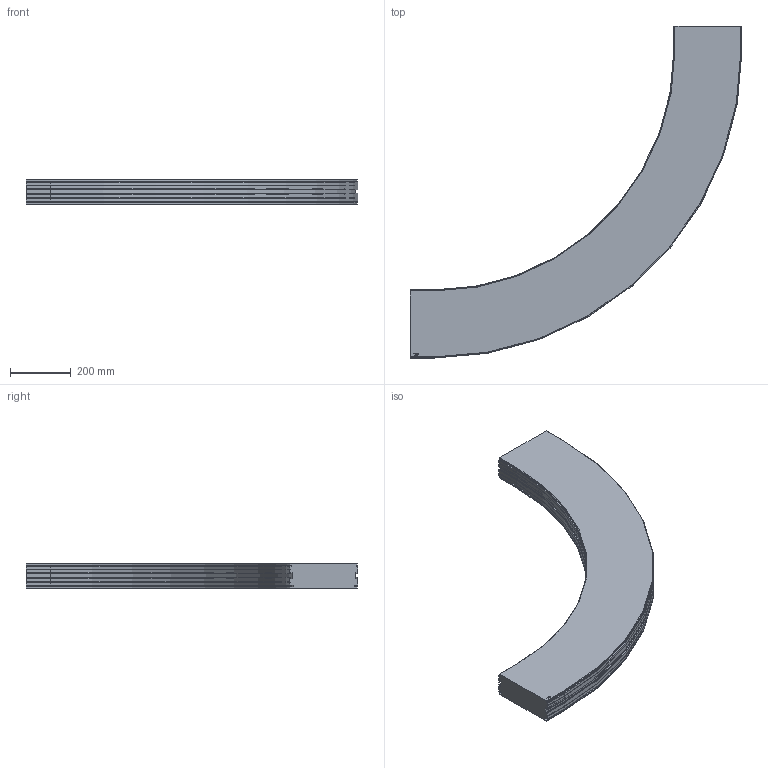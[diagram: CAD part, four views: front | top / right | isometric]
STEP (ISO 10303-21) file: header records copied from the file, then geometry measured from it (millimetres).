
FILE_DESCRIPTION(/* description */ ('GLIDKURVA SERIE 220'),/* implementation_level */ '2;1');
FILE_NAME(/* name */ '\\carryline.intra\privat\users\mathias\Desktop\Tillfälliga filer\220-5375+220-2000-01.stp',/* time_stamp */ '2018-11-29T12:56:21+01:00',/* author */ ('MD'),/* organization */ ('CARRYLINE'),/* preprocessor_version */ 'ST-DEVELOPER v17',/* originating_system */ 'Autodesk Inventor 2018',/* authorisation */ '');
FILE_SCHEMA (('AUTOMOTIVE_DESIGN { 1 0 10303 214 3 1 1 }'));
Length unit declared in the file: millimetre
Products named in the file (1): 220-5375+220-2000-01
Bounding box: 1092 x 1092 x 81.5 mm (x, y, z)
Volume: 28008625.6 mm3; surface area: 1171254.7 mm2
Topology: 1 solids, 1 shells, 165 faces, 442 edges, 284 vertices
Faces by surface type: plane 115, cylinder 24, bspline 14, cone 12
Entity records: 5281 total; most frequent: CARTESIAN_POINT 1134, ORIENTED_EDGE 884, DIRECTION 774, EDGE_CURVE 442, LINE 358, VECTOR 358, VERTEX_POINT 284, AXIS2_PLACEMENT_3D 208
